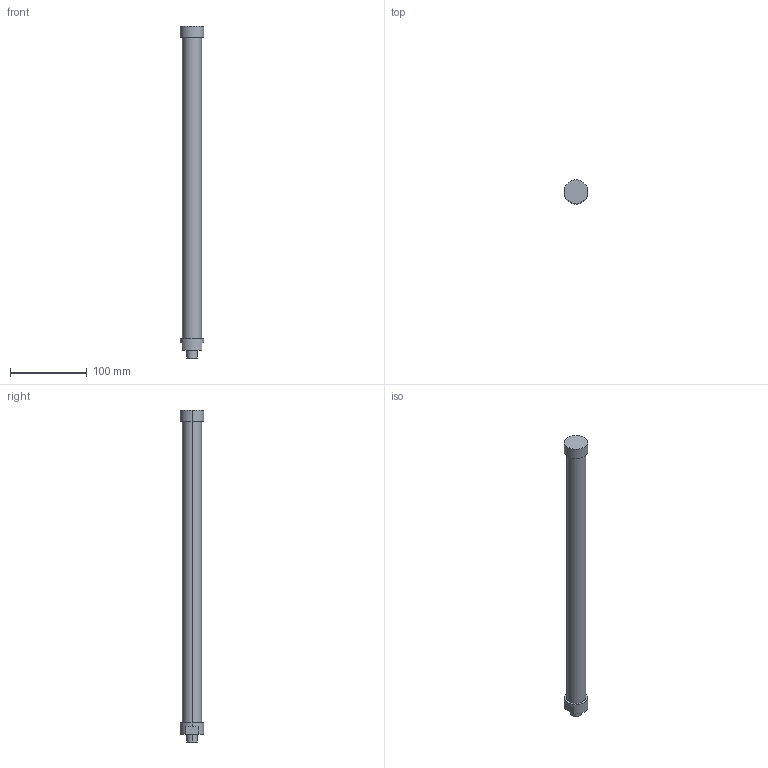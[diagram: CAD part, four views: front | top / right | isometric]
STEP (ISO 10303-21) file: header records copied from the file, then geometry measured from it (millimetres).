
FILE_DESCRIPTION(('STEP AP214'),'1');
FILE_NAME('C:/Users/Autocad/Desktop/L434-C210S1-FN.stp','2014-02-10T10:53:24',(' '),(' '),'Spatial InterOp 3D',' ',' ');
FILE_SCHEMA(('automotive_design'));
Length unit declared in the file: metre
Products named in the file (2): 1; 2
Bounding box: 31 x 31 x 434 mm (x, y, z)
Volume: 216618.4 mm3; surface area: 36911.6 mm2
Topology: 1 solids, 4 shells, 23 faces, 54 edges, 40 vertices
Faces by surface type: cylinder 12, plane 11
Entity records: 916 total; most frequent: DIRECTION 136, CARTESIAN_POINT 119, ORIENTED_EDGE 96, AXIS2_PLACEMENT_3D 57, EDGE_CURVE 54, VERTEX_POINT 40, CIRCLE 32, EDGE_LOOP 28
